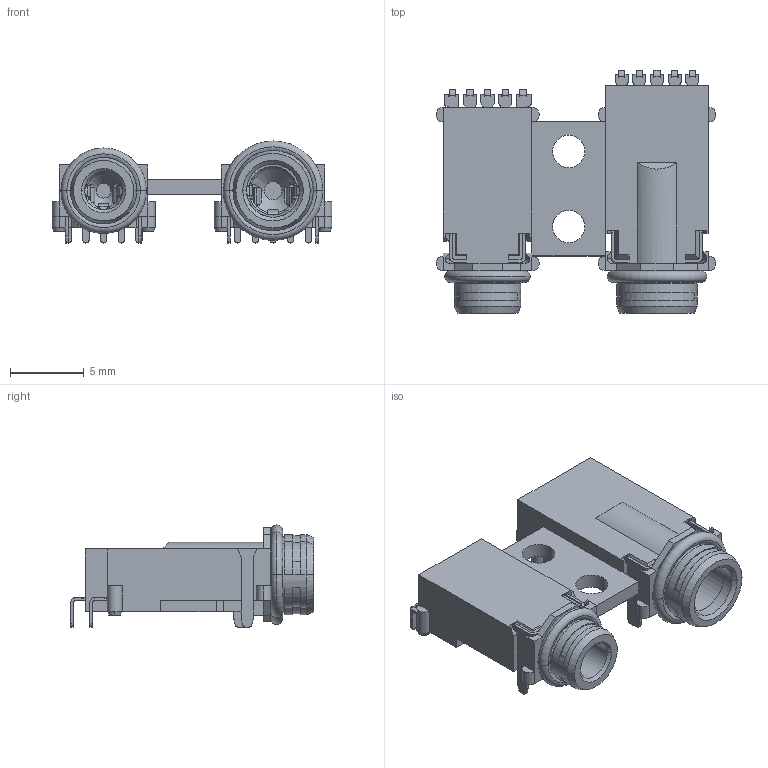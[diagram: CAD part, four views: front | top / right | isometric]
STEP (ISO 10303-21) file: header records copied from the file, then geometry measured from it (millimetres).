
FILE_DESCRIPTION (( 'STEP AP214' ), '1' );
FILE_NAME ('PJ25+35A106-07D.STEP', '2026-07-29T06:41:15', ( '' ), ( '' ), 'SwSTEP 2.0', 'SolidWorks 2024', '' );
FILE_SCHEMA (( 'AUTOMOTIVE_DESIGN' ));
Length unit declared in the file: millimetre
Products named in the file (1): PJ25+35A106-07D
Bounding box: 19 x 16.5 x 6.92 mm (x, y, z)
Volume: 621.3 mm3; surface area: 1281.7 mm2
Topology: 1 solids, 10 shells, 977 faces, 2783 edges, 1815 vertices
Faces by surface type: plane 681, cylinder 259, cone 27, torus 10
Entity records: 32513 total; most frequent: CARTESIAN_POINT 7045, ORIENTED_EDGE 5566, DIRECTION 5029, EDGE_CURVE 2783, LINE 1933, VECTOR 1933, VERTEX_POINT 1815, AXIS2_PLACEMENT_3D 1548
